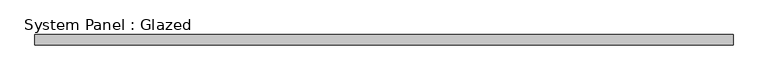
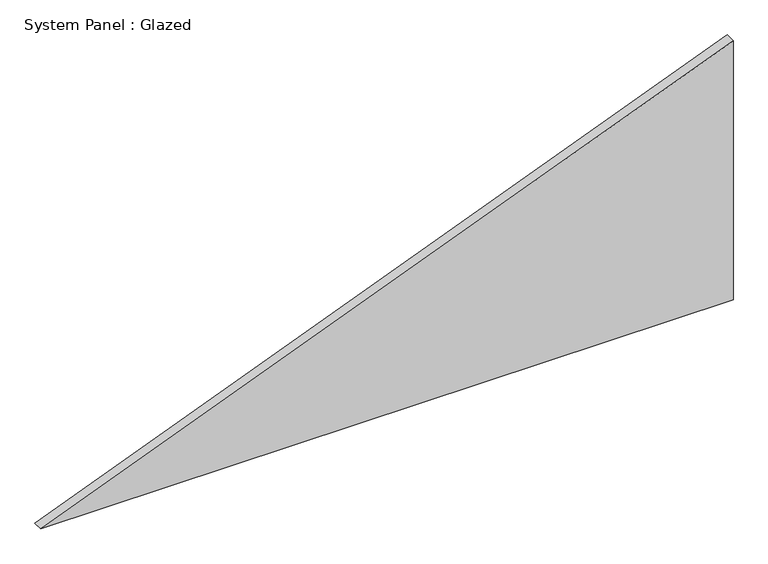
"""IFC4 building model written with IfcOpenShell, lengths in millimetres: plate geometry, System Panel : Glazed."""

from ifc_helpers import new_model, si_unit, frame, origin, place, context, project, spatial, polyline, outline, extrude, source, transform, mapped, element, save


def system_panel_glazed_77711ee0(model_context):
    return source(origin(), model_context, "Body", "SweptSolid", [
        extrude(outline(polyline([(0.0, -854.5931736), (0.0, 854.5931736), (675.7371377, 854.5931736), (0.0, -854.5931736)])), frame((0.0, 19.05, 0.0), z_axis=(0.0, 1.0, 0.0), x_axis=(0.0, 0.0, 1.0)), (0.0, 0.0, 1.0), 25.4),
    ])


if __name__ == "__main__":
    model = new_model("IFC4")
    model_context = context("Model", 3, world=origin())
    ifc_project = project(units=[si_unit("LENGTHUNIT", "METRE", prefix="MILLI")], contexts=[model_context])
    site = spatial("IfcSite", under=ifc_project)
    building = spatial("IfcBuilding", under=site)
    placement = place(None, origin())
    system_panel_glazed_shape = system_panel_glazed_77711ee0(model_context)
    element("IfcPlate", 1, ObjectType="System Panel : Glazed", at=placement, inside=building, context=model_context, shape_type="MappedRepresentation", body=[
        mapped(system_panel_glazed_shape, transform((0.0, 0.0, 0.0), x_axis=(1.0, 0.0, 0.0), y_axis=(0.0, 1.0, 0.0), z_axis=(0.0, 0.0, 1.0))),
    ])
    save(model, "model.ifc")
